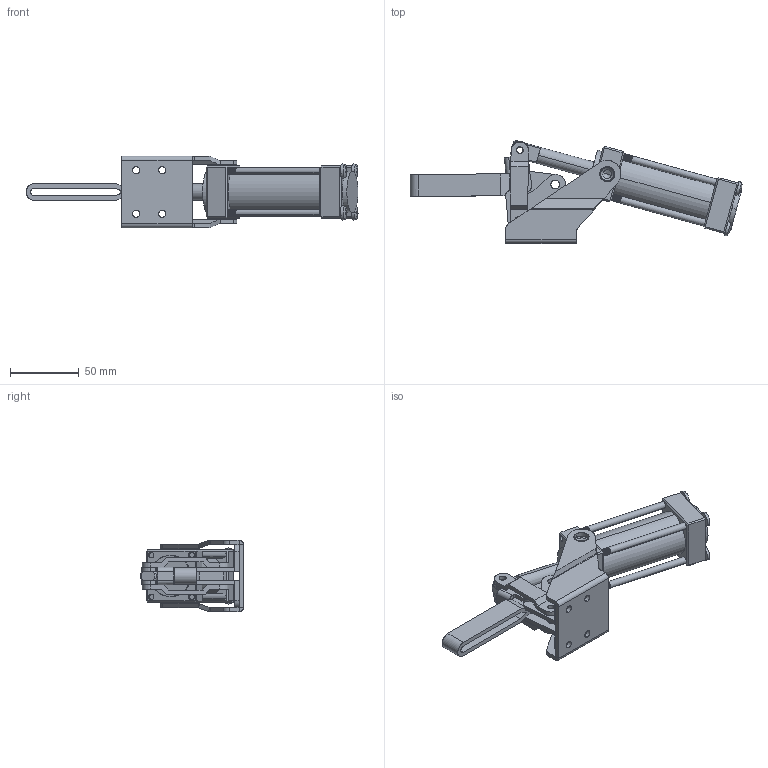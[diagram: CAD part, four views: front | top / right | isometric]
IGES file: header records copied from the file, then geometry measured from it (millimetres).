
Start section: SolidWorks IGES file using analytic representation for surfaces
Global section: file name: D:\GH Files\GH-SW-FILES\GH-A\12130A,12132A\12130A.IGS; native system: SolidWorks 2006 by SolidWorks Corporation; preprocessor: SolidWorks 2006 by SolidWorks Corporation; author: Administrator; date: 060526.120024; units: millimetre
Bounding box: 241.77 x 75.1 x 52.4 mm (x, y, z)
Surface area: 84235.5 mm2 (no closed solid volume)
Topology: 0 solids, 0 shells, 1127 faces, 10582 edges, 10570 vertices
Faces by surface type: revolution 859, bspline 268
